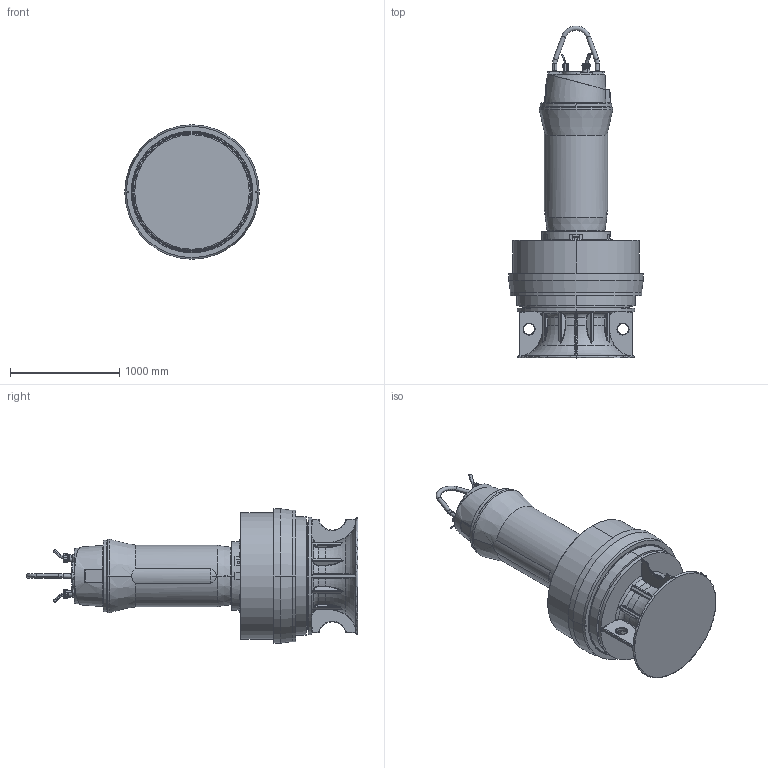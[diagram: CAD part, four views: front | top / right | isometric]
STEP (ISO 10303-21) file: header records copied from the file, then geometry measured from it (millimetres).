
FILE_DESCRIPTION (( 'STEP AP214' ), '1' );
FILE_NAME ('PE6_AFLX12107_STD_C_NG2.STEP', '2017-04-21T11:07:56', ( '' ), ( '' ), 'SwSTEP 2.0', 'SolidWorks 2017', '' );
FILE_SCHEMA (( 'AUTOMOTIVE_DESIGN' ));
Length unit declared in the file: millimetre
Products named in the file (1): PE6_AFLX12107_STD_C_NG2
Bounding box: 1230 x 3037.1 x 1230 mm (x, y, z)
Volume: 1209168958.6 mm3; surface area: 12838556 mm2
Topology: 3 solids, 24 shells, 2632 faces, 6324 edges, 3642 vertices
Faces by surface type: bspline 715, plane 669, cylinder 543, torus 295, cone 283, sphere 127
Entity records: 672964 total; most frequent: CARTESIAN_POINT 589158, ORIENTED_EDGE 12264, DIRECTION 10312, EDGE_CURVE 6132, AXIS2_PLACEMENT_3D 4199, VERTEX_POINT 3641, EDGE_LOOP 2787, UNCERTAINTY_MEASURE_WITH_UNIT 2637
